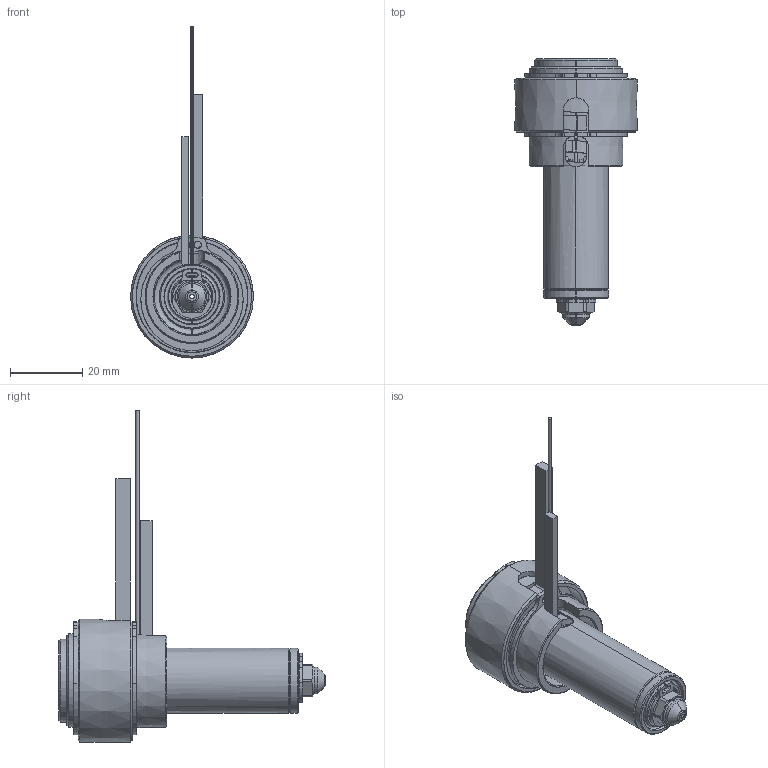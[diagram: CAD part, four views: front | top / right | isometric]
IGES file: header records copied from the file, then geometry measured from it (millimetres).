
Start section: SolidWorks IGES file using analytic representation for surfaces
Global section: file name: C:\Documents and Settings\ws-20\Desktop\TEM\UGER2501-M-A-0 [Øb-1.30 ØC-4.0].IGS; native system: SolidWorks 2012; preprocessor: SolidWorks 2012; author: ws-20; date: 120405.101549; units: millimetre
Bounding box: 34 x 73.9 x 91.9 mm (x, y, z)
Surface area: 19045 mm2 (no closed solid volume)
Topology: 0 solids, 0 shells, 195 faces, 2499 edges, 2499 vertices
Faces by surface type: revolution 123, bspline 72
